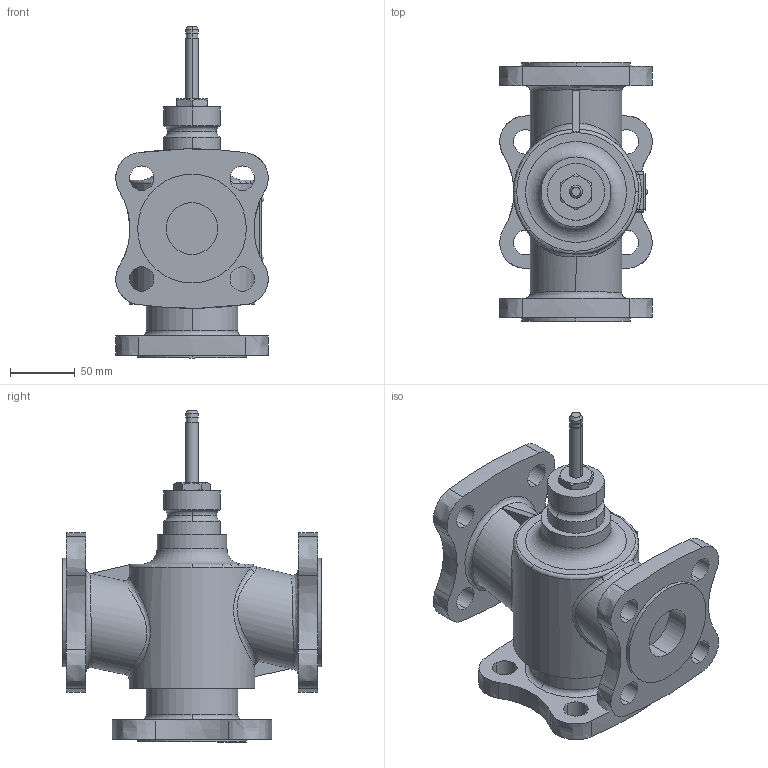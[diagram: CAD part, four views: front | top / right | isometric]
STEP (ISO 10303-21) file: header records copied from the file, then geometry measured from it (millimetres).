
FILE_DESCRIPTION(/* description */ ('Step214'),/* implementation_level */ '2;1');
FILE_NAME(/* name */ 'VXF53 DN40 RF.stp',/* time_stamp */ '2015-11-04T14:27:07+01:00',/* author */ (''),/* organization */ ('Siemens'),/* preprocessor_version */ 'ST-DEVELOPER v15',/* originating_system */ 'SIEMENS PLM Software NX 8.5',/* authorisation */ 'for Duktil only');
FILE_SCHEMA (('AUTOMOTIVE_DESIGN { 1 0 10303 214 3 1 1 1 }'));
Length unit declared in the file: millimetre
Products named in the file (1): Volc0CEC07D0agao
Bounding box: 117.75 x 200 x 256.49 mm (x, y, z)
Volume: 1735549.7 mm3; surface area: 163078.9 mm2
Topology: 1 solids, 1 shells, 160 faces, 405 edges, 263 vertices
Faces by surface type: cylinder 65, plane 42, extrusion 24, torus 11, bspline 10, cone 6, sphere 2
Full cylindrical faces by diameter (mm): 54 x1
Entity records: 7962 total; most frequent: CARTESIAN_POINT 4157, ORIENTED_EDGE 794, DIRECTION 742, EDGE_CURVE 397, AXIS2_PLACEMENT_3D 292, VERTEX_POINT 261, EDGE_LOOP 206, ADVANCED_FACE 160
